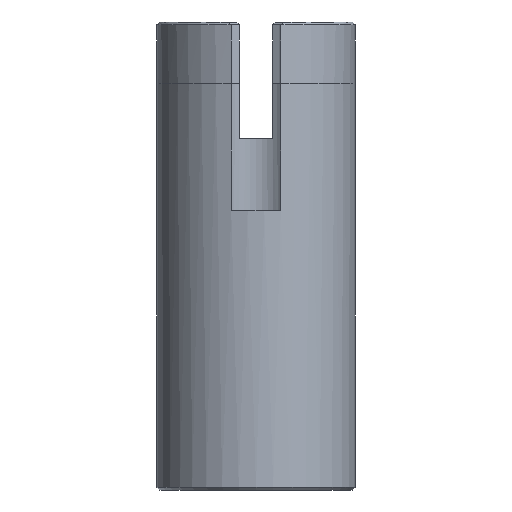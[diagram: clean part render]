
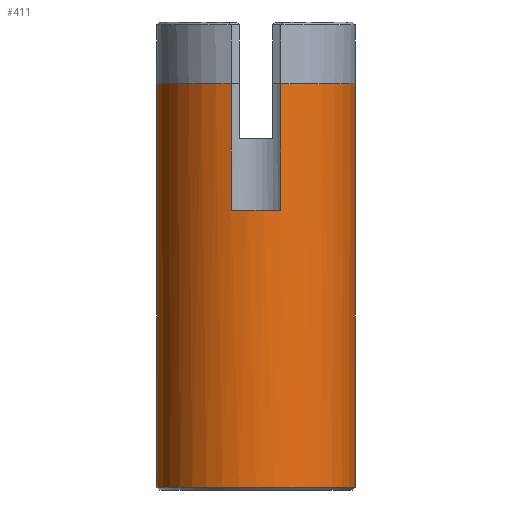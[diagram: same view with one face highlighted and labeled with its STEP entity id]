
A CAD part, front view. The second image highlights one B-rep face of the part: STEP entity #411.
In plain terms, the highlighted cylindrical face has radius 18 mm (diameter 36 mm), a partial arc.
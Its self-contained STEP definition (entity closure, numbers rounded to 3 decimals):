
#286=AXIS2_PLACEMENT_3D('Circle Axis2P3D',#284,#285,$) ;
#331=AXIS2_PLACEMENT_3D('Circle Axis2P3D',#329,#330,$) ;
#361=AXIS2_PLACEMENT_3D('Cylinder Axis2P3D',#358,#359,#360) ;
#379=AXIS2_PLACEMENT_3D('Circle Axis2P3D',#377,#378,$) ;
#398=AXIS2_PLACEMENT_3D('Circle Axis2P3D',#396,#397,$) ;
#284=CARTESIAN_POINT('Axis2P3D Location',(0.,0.,50.8)) ;
#288=CARTESIAN_POINT('Vertex',(-4.5,-17.428,50.8)) ;
#290=CARTESIAN_POINT('Vertex',(4.5,-17.428,50.8)) ;
#319=CARTESIAN_POINT('Vertex',(-18.,0.,0.5)) ;
#326=CARTESIAN_POINT('Vertex',(18.,0.,0.5)) ;
#329=CARTESIAN_POINT('Axis2P3D Location',(0.,0.,0.5)) ;
#358=CARTESIAN_POINT('Axis2P3D Location',(0.,0.,31.9)) ;
#363=CARTESIAN_POINT('Line Origine',(-18.,0.,42.5)) ;
#367=CARTESIAN_POINT('Vertex',(-18.,0.,73.8)) ;
#370=CARTESIAN_POINT('Line Origine',(18.,0.,42.5)) ;
#374=CARTESIAN_POINT('Vertex',(18.,0.,73.8)) ;
#377=CARTESIAN_POINT('Axis2P3D Location',(0.,0.,73.8)) ;
#381=CARTESIAN_POINT('Vertex',(4.5,-17.428,73.8)) ;
#384=CARTESIAN_POINT('Line Origine',(4.5,-17.428,42.5)) ;
#389=CARTESIAN_POINT('Line Origine',(-4.5,-17.428,42.5)) ;
#393=CARTESIAN_POINT('Vertex',(-4.5,-17.428,73.8)) ;
#396=CARTESIAN_POINT('Axis2P3D Location',(0.,0.,73.8)) ;
#285=DIRECTION('Axis2P3D Direction',(0.,0.,1.)) ;
#330=DIRECTION('Axis2P3D Direction',(0.,0.,1.)) ;
#359=DIRECTION('Axis2P3D Direction',(0.,0.,1.)) ;
#360=DIRECTION('Axis2P3D XDirection',(1.,0.,0.)) ;
#364=DIRECTION('Vector Direction',(0.,0.,1.)) ;
#371=DIRECTION('Vector Direction',(0.,0.,1.)) ;
#378=DIRECTION('Axis2P3D Direction',(0.,0.,1.)) ;
#385=DIRECTION('Vector Direction',(0.,0.,1.)) ;
#390=DIRECTION('Vector Direction',(0.,0.,1.)) ;
#397=DIRECTION('Axis2P3D Direction',(0.,0.,1.)) ;
#365=VECTOR('Line Direction',#364,1.) ;
#372=VECTOR('Line Direction',#371,1.) ;
#386=VECTOR('Line Direction',#385,1.) ;
#391=VECTOR('Line Direction',#390,1.) ;
#402=ORIENTED_EDGE('',*,*,#369,.F.) ;
#403=ORIENTED_EDGE('',*,*,#333,.T.) ;
#404=ORIENTED_EDGE('',*,*,#376,.T.) ;
#405=ORIENTED_EDGE('',*,*,#383,.F.) ;
#406=ORIENTED_EDGE('',*,*,#388,.T.) ;
#407=ORIENTED_EDGE('',*,*,#292,.F.) ;
#408=ORIENTED_EDGE('',*,*,#395,.F.) ;
#409=ORIENTED_EDGE('',*,*,#400,.F.) ;
#411=ADVANCED_FACE('\X2\96F64EF651E04F554F53\X0\',(#410),#362,.T.) ;
#287=CIRCLE('generated circle',#286,18.) ;
#332=CIRCLE('generated circle',#331,18.) ;
#380=CIRCLE('generated circle',#379,18.) ;
#399=CIRCLE('generated circle',#398,18.) ;
#362=CYLINDRICAL_SURFACE('generated cylinder',#361,18.) ;
#292=EDGE_CURVE('',#289,#291,#287,.T.) ;
#333=EDGE_CURVE('',#320,#327,#332,.T.) ;
#369=EDGE_CURVE('',#320,#368,#366,.T.) ;
#376=EDGE_CURVE('',#327,#375,#373,.T.) ;
#383=EDGE_CURVE('',#382,#375,#380,.T.) ;
#388=EDGE_CURVE('',#382,#291,#387,.F.) ;
#395=EDGE_CURVE('',#394,#289,#392,.F.) ;
#400=EDGE_CURVE('',#368,#394,#399,.T.) ;
#401=EDGE_LOOP('',(#402,#403,#404,#405,#406,#407,#408,#409)) ;
#410=FACE_OUTER_BOUND('',#401,.T.) ;
#366=LINE('Line',#363,#365) ;
#373=LINE('Line',#370,#372) ;
#387=LINE('Line',#384,#386) ;
#392=LINE('Line',#389,#391) ;
#289=VERTEX_POINT('',#288) ;
#291=VERTEX_POINT('',#290) ;
#320=VERTEX_POINT('',#319) ;
#327=VERTEX_POINT('',#326) ;
#368=VERTEX_POINT('',#367) ;
#375=VERTEX_POINT('',#374) ;
#382=VERTEX_POINT('',#381) ;
#394=VERTEX_POINT('',#393) ;
